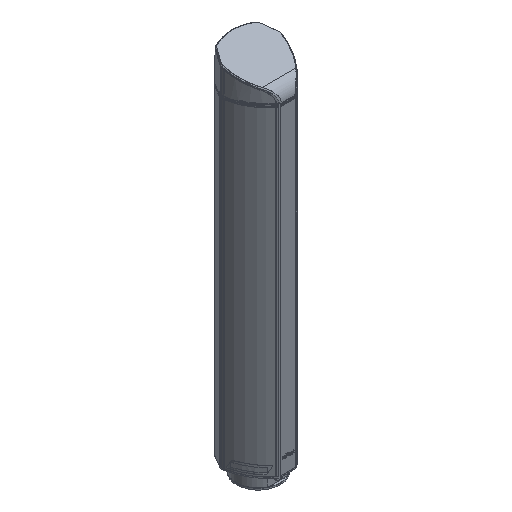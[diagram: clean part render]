
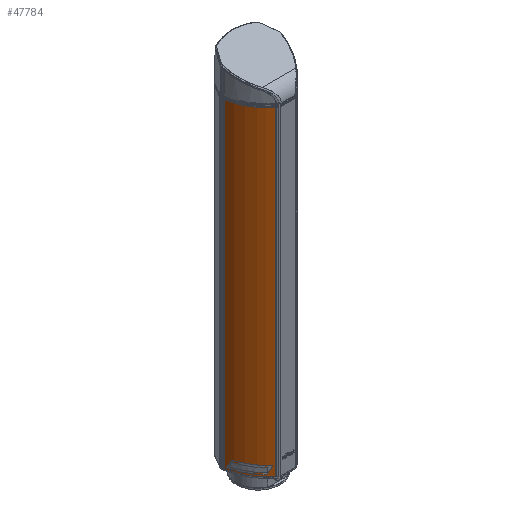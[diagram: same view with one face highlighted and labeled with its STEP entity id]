
A CAD part, isometric view. The second image highlights one B-rep face of the part: STEP entity #47784.
In plain terms, the highlighted free-form (B-spline) face has degree [3, 1] with [4, 2] control points.
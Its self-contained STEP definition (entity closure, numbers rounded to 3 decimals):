
#303=B_SPLINE_SURFACE_WITH_KNOTS('',3,1,((#68939,#68940),(#68941,#68942),
(#68943,#68944),(#68945,#68946)),.SURF_OF_LINEAR_EXTRUSION.,.F.,.F.,.F.,
(4,4),(2,2),(0.055,0.945),(0.,1.),
 .PIECEWISE_BEZIER_KNOTS.);
#506=B_SPLINE_CURVE_WITH_KNOTS('',3,(#68054,#68055,#68056,#68057),
 .UNSPECIFIED.,.F.,.F.,(4,4),(0.,1.),.UNSPECIFIED.);
#519=B_SPLINE_CURVE_WITH_KNOTS('',3,(#68580,#68581,#68582,#68583),
 .UNSPECIFIED.,.F.,.F.,(4,4),(0.,1.),.UNSPECIFIED.);
#4470=LINE('',#68947,#7359);
#4471=LINE('',#68948,#7360);
#7359=VECTOR('',#58267,1000.);
#7360=VECTOR('',#58268,1000.);
#13349=ORIENTED_EDGE('',*,*,#21869,.T.);
#13350=ORIENTED_EDGE('',*,*,#22288,.T.);
#13351=ORIENTED_EDGE('',*,*,#22113,.F.);
#13352=ORIENTED_EDGE('',*,*,#22289,.T.);
#21869=EDGE_CURVE('',#26700,#26699,#506,.T.);
#22113=EDGE_CURVE('',#26938,#26939,#519,.T.);
#22288=EDGE_CURVE('',#26699,#26939,#4470,.F.);
#22289=EDGE_CURVE('',#26938,#26700,#4471,.T.);
#26699=VERTEX_POINT('',#68053);
#26700=VERTEX_POINT('',#68058);
#26938=VERTEX_POINT('',#68579);
#26939=VERTEX_POINT('',#68584);
#31791=EDGE_LOOP('',(#13349,#13350,#13351,#13352));
#34522=FACE_BOUND('',#31791,.T.);
#47784=ADVANCED_FACE('',(#34522),#303,.F.);
#58267=DIRECTION('',(0.,0.,-1.));
#58268=DIRECTION('',(0.,0.,-1.));
#68053=CARTESIAN_POINT('',(82.478,-32.602,0.));
#68054=CARTESIAN_POINT('',(-20.117,-88.844,0.));
#68055=CARTESIAN_POINT('',(23.073,-83.75,0.));
#68056=CARTESIAN_POINT('',(60.372,-61.385,0.));
#68057=CARTESIAN_POINT('',(87.,-27.,0.));
#68058=CARTESIAN_POINT('',(-12.993,-87.839,0.));
#68579=CARTESIAN_POINT('',(-12.993,-87.839,942.));
#68580=CARTESIAN_POINT('',(-20.117,-88.844,942.));
#68581=CARTESIAN_POINT('',(23.073,-83.75,942.));
#68582=CARTESIAN_POINT('',(60.372,-61.385,942.));
#68583=CARTESIAN_POINT('',(87.,-27.,942.));
#68584=CARTESIAN_POINT('',(82.478,-32.602,942.));
#68939=CARTESIAN_POINT('',(-12.993,-87.839,942.));
#68940=CARTESIAN_POINT('',(-12.993,-87.839,0.));
#68941=CARTESIAN_POINT('',(24.818,-81.622,942.));
#68942=CARTESIAN_POINT('',(24.818,-81.622,0.));
#68943=CARTESIAN_POINT('',(57.762,-61.979,942.));
#68944=CARTESIAN_POINT('',(57.762,-61.979,0.));
#68945=CARTESIAN_POINT('',(82.478,-32.602,942.));
#68946=CARTESIAN_POINT('',(82.478,-32.602,0.));
#68947=CARTESIAN_POINT('',(82.478,-32.602,0.));
#68948=CARTESIAN_POINT('',(-12.993,-87.839,942.));
